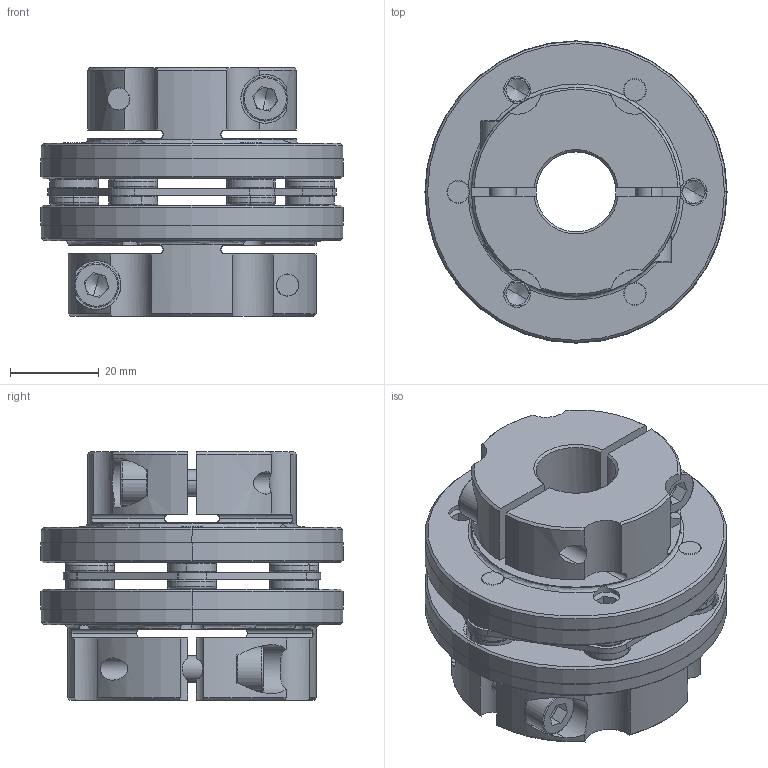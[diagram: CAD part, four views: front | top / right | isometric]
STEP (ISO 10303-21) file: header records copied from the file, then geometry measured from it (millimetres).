
FILE_DESCRIPTION (( 'STEP AP203' ), '1' );
FILE_NAME ('SCDS-68C-TYPE2(18X28).STEP', '2021-12-27T01:06:33', ( '' ), ( '' ), 'SwSTEP 2.0', 'SolidWorks 2021', '' );
FILE_SCHEMA (( 'CONFIG_CONTROL_DESIGN' ));
Length unit declared in the file: millimetre
Products named in the file (1): SCDS-68C-TYPE2(18X28)
Bounding box: 68 x 68 x 55.9 mm (x, y, z)
Volume: 98530.9 mm3; surface area: 41186.2 mm2
Topology: 1 solids, 19 shells, 747 faces, 1848 edges, 1135 vertices
Faces by surface type: cylinder 267, plane 214, cone 149, torus 117
Entity records: 23240 total; most frequent: CARTESIAN_POINT 4908, DIRECTION 4175, ORIENTED_EDGE 3656, EDGE_CURVE 1828, AXIS2_PLACEMENT_3D 1742, VERTEX_POINT 1135, CIRCLE 994, EDGE_LOOP 833
